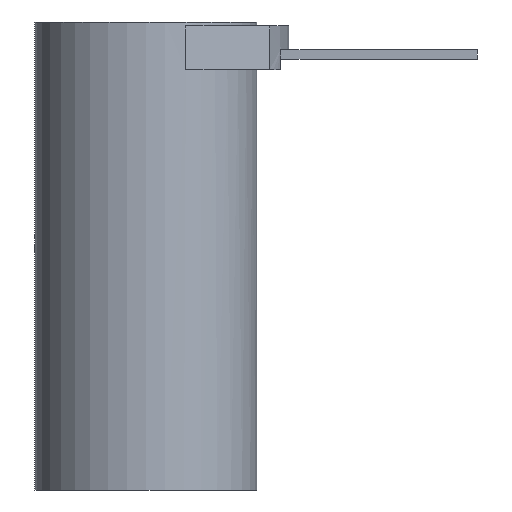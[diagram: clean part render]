
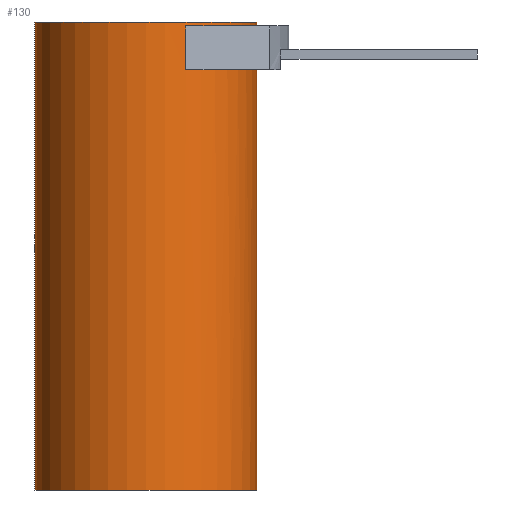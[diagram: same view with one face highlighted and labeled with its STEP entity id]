
A CAD part, front view. The second image highlights one B-rep face of the part: STEP entity #130.
In plain terms, the highlighted cylindrical face has radius 14 mm (diameter 28 mm), a partial arc.
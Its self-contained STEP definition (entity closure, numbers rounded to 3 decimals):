
#113=CYLINDRICAL_SURFACE('',#597,14.);
#130=ADVANCED_FACE('',(#175),#113,.T.);
#175=FACE_OUTER_BOUND('',#198,.T.);
#198=EDGE_LOOP('',(#301,#302,#303,#304,#305,#306,#307,#308,#309,#310));
#224=CIRCLE('',#577,14.);
#225=CIRCLE('',#580,14.);
#230=CIRCLE('',#590,14.);
#233=CIRCLE('',#595,14.);
#234=CIRCLE('',#596,14.);
#301=ORIENTED_EDGE('',*,*,#452,.F.);
#302=ORIENTED_EDGE('',*,*,#457,.F.);
#303=ORIENTED_EDGE('',*,*,#458,.T.);
#304=ORIENTED_EDGE('',*,*,#455,.T.);
#305=ORIENTED_EDGE('',*,*,#459,.F.);
#306=ORIENTED_EDGE('',*,*,#453,.F.);
#307=ORIENTED_EDGE('',*,*,#438,.F.);
#308=ORIENTED_EDGE('',*,*,#435,.F.);
#309=ORIENTED_EDGE('',*,*,#434,.F.);
#310=ORIENTED_EDGE('',*,*,#448,.F.);
#388=VERTEX_POINT('',#794);
#390=VERTEX_POINT('',#798);
#391=VERTEX_POINT('',#802);
#393=VERTEX_POINT('',#808);
#398=VERTEX_POINT('',#825);
#400=VERTEX_POINT('',#833);
#401=VERTEX_POINT('',#837);
#402=VERTEX_POINT('',#839);
#403=VERTEX_POINT('',#841);
#404=VERTEX_POINT('',#843);
#434=EDGE_CURVE('',#390,#388,#224,.T.);
#435=EDGE_CURVE('',#388,#391,#498,.T.);
#438=EDGE_CURVE('',#391,#393,#225,.T.);
#448=EDGE_CURVE('',#398,#390,#508,.T.);
#452=EDGE_CURVE('',#400,#398,#230,.T.);
#453=EDGE_CURVE('',#393,#401,#510,.T.);
#455=EDGE_CURVE('',#403,#402,#511,.T.);
#457=EDGE_CURVE('',#404,#400,#512,.T.);
#458=EDGE_CURVE('',#404,#403,#233,.T.);
#459=EDGE_CURVE('',#401,#402,#234,.T.);
#498=LINE('',#801,#537);
#508=LINE('',#827,#547);
#510=LINE('',#836,#549);
#511=LINE('',#840,#550);
#512=LINE('',#844,#551);
#537=VECTOR('',#647,1.);
#547=VECTOR('',#671,1.);
#549=VECTOR('',#685,1.);
#550=VECTOR('',#688,1.);
#551=VECTOR('',#691,1.);
#577=AXIS2_PLACEMENT_3D('',#799,#643,#644);
#580=AXIS2_PLACEMENT_3D('',#807,#652,#653);
#590=AXIS2_PLACEMENT_3D('',#834,#681,#682);
#595=AXIS2_PLACEMENT_3D('',#846,#694,#695);
#596=AXIS2_PLACEMENT_3D('',#847,#696,#697);
#597=AXIS2_PLACEMENT_3D('',#848,#698,#699);
#643=DIRECTION('',(0.,0.,1.));
#644=DIRECTION('',(-1.,0.,0.));
#647=DIRECTION('',(0.,0.,1.));
#652=DIRECTION('',(0.,0.,1.));
#653=DIRECTION('',(0.565,-0.825,0.));
#671=DIRECTION('',(0.,0.,-1.));
#681=DIRECTION('',(0.,0.,-1.));
#682=DIRECTION('',(-1.,0.,0.));
#685=DIRECTION('',(0.,0.,-1.));
#688=DIRECTION('',(0.,0.,-1.));
#691=DIRECTION('',(0.,0.,-1.));
#694=DIRECTION('',(0.,0.,-1.));
#695=DIRECTION('',(0.,1.,0.));
#696=DIRECTION('',(0.,0.,-1.));
#697=DIRECTION('',(0.,1.,0.));
#698=DIRECTION('',(0.,0.,-1.));
#699=DIRECTION('',(0.,-1.,0.));
#794=CARTESIAN_POINT('',(12.649,-6.,53.));
#798=CARTESIAN_POINT('',(5.03,-13.065,53.));
#799=CARTESIAN_POINT('',(0.,0.,53.));
#801=CARTESIAN_POINT('',(12.649,-6.,52.98));
#802=CARTESIAN_POINT('',(12.649,-6.,55.5));
#807=CARTESIAN_POINT('',(0.,0.,55.5));
#808=CARTESIAN_POINT('',(14.,0.,55.5));
#825=CARTESIAN_POINT('',(5.03,-13.065,58.5));
#827=CARTESIAN_POINT('',(5.03,-13.065,59.02));
#833=CARTESIAN_POINT('',(14.,0.,58.5));
#834=CARTESIAN_POINT('',(0.,0.,58.5));
#836=CARTESIAN_POINT('',(14.,0.,0.));
#837=CARTESIAN_POINT('',(14.,0.,0.));
#839=CARTESIAN_POINT('',(-14.,0.,0.));
#840=CARTESIAN_POINT('',(-14.,0.,0.));
#841=CARTESIAN_POINT('',(-14.,0.,59.));
#843=CARTESIAN_POINT('',(14.,0.,59.));
#844=CARTESIAN_POINT('',(14.,0.,0.));
#846=CARTESIAN_POINT('',(0.,0.,59.));
#847=CARTESIAN_POINT('',(0.,0.,0.));
#848=CARTESIAN_POINT('',(0.,0.,59.));
